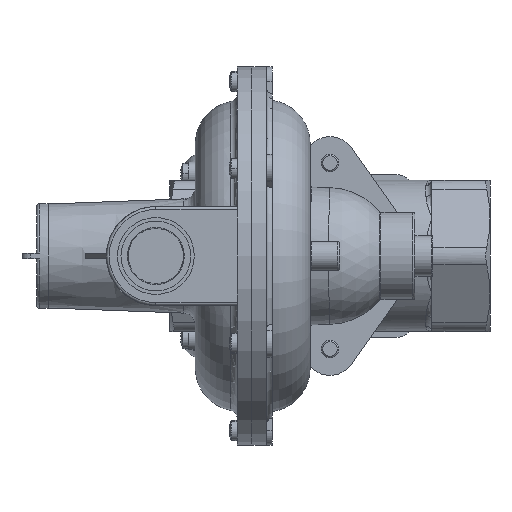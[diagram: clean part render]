
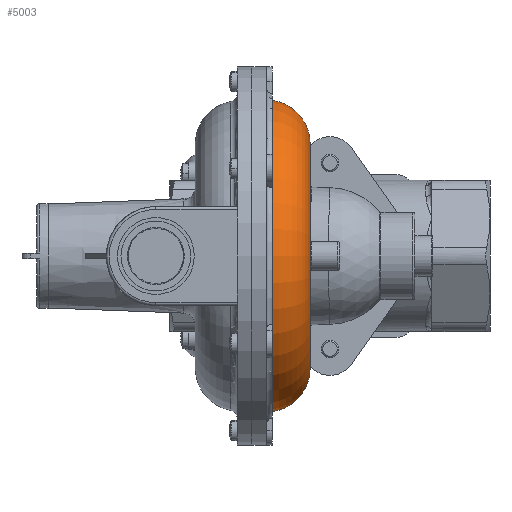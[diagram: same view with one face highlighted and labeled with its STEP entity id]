
A CAD part, left-side view. The second image highlights one B-rep face of the part: STEP entity #5003.
In plain terms, the highlighted toroidal (fillet/blend) face has major radius 38.634 mm and minor radius 15 mm.
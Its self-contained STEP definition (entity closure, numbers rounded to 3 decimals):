
#639 = TOROIDAL_SURFACE ( 'NONE', #10187, 38.634, 15. ) ;
#797 = CARTESIAN_POINT ( 'NONE',  ( 0., -7., 53.5 ) ) ;
#1348 = FACE_OUTER_BOUND ( 'NONE', #10439, .T. ) ;
#1914 = VERTEX_POINT ( 'NONE', #25549 ) ;
#2040 = CARTESIAN_POINT ( 'NONE',  ( 0., -5., -38.634 ) ) ;
#3648 = CIRCLE ( 'NONE', #12642, 38.634 ) ;
#3725 = CIRCLE ( 'NONE', #14126, 53.5 ) ;
#4306 = DIRECTION ( 'NONE',  ( 0., 0., 1. ) ) ;
#5003 = ADVANCED_FACE ( 'NONE', ( #1348 ), #639, .T. ) ;
#6475 = CIRCLE ( 'NONE', #17024, 15. ) ;
#7681 = CARTESIAN_POINT ( 'NONE',  ( 0., -20., -38.634 ) ) ;
#7788 = DIRECTION ( 'NONE',  ( 0., -1., 0. ) ) ;
#8453 = CARTESIAN_POINT ( 'NONE',  ( 0., -5., 38.634 ) ) ;
#9001 = EDGE_CURVE ( 'NONE', #1914, #23503, #6475, .T. ) ;
#10187 = AXIS2_PLACEMENT_3D ( 'NONE', #11832, #28513, #17196 ) ;
#10439 = EDGE_LOOP ( 'NONE', ( #19634, #13745, #11772, #21825 ) ) ;
#10731 = DIRECTION ( 'NONE',  ( 0., 0., -1. ) ) ;
#10993 = VERTEX_POINT ( 'NONE', #24153 ) ;
#11757 = DIRECTION ( 'NONE',  ( 0., -1., 0. ) ) ;
#11772 = ORIENTED_EDGE ( 'NONE', *, *, #9001, .T. ) ;
#11832 = CARTESIAN_POINT ( 'NONE',  ( 0., -5., 0. ) ) ;
#12219 = VERTEX_POINT ( 'NONE', #797 ) ;
#12642 = AXIS2_PLACEMENT_3D ( 'NONE', #25340, #11757, #27603 ) ;
#13745 = ORIENTED_EDGE ( 'NONE', *, *, #21472, .T. ) ;
#14126 = AXIS2_PLACEMENT_3D ( 'NONE', #21339, #7788, #23627 ) ;
#16227 = CIRCLE ( 'NONE', #27995, 15. ) ;
#17024 = AXIS2_PLACEMENT_3D ( 'NONE', #2040, #17899, #4306 ) ;
#17196 = DIRECTION ( 'NONE',  ( 0., 0., -1. ) ) ;
#17899 = DIRECTION ( 'NONE',  ( -1., 0., 0. ) ) ;
#19634 = ORIENTED_EDGE ( 'NONE', *, *, #28799, .F. ) ;
#21339 = CARTESIAN_POINT ( 'NONE',  ( 0., -7., 0. ) ) ;
#21472 = EDGE_CURVE ( 'NONE', #12219, #1914, #3725, .T. ) ;
#21825 = ORIENTED_EDGE ( 'NONE', *, *, #22869, .F. ) ;
#22869 = EDGE_CURVE ( 'NONE', #10993, #23503, #3648, .T. ) ;
#23503 = VERTEX_POINT ( 'NONE', #7681 ) ;
#23627 = DIRECTION ( 'NONE',  ( 0., 0., -1. ) ) ;
#24153 = CARTESIAN_POINT ( 'NONE',  ( 0., -20., 38.634 ) ) ;
#24281 = DIRECTION ( 'NONE',  ( 1., 0., 0. ) ) ;
#25340 = CARTESIAN_POINT ( 'NONE',  ( 0., -20., 0. ) ) ;
#25549 = CARTESIAN_POINT ( 'NONE',  ( 0., -7., -53.5 ) ) ;
#27603 = DIRECTION ( 'NONE',  ( 0., 0., -1. ) ) ;
#27995 = AXIS2_PLACEMENT_3D ( 'NONE', #8453, #24281, #10731 ) ;
#28513 = DIRECTION ( 'NONE',  ( 0., -1., 0. ) ) ;
#28799 = EDGE_CURVE ( 'NONE', #12219, #10993, #16227, .T. ) ;
